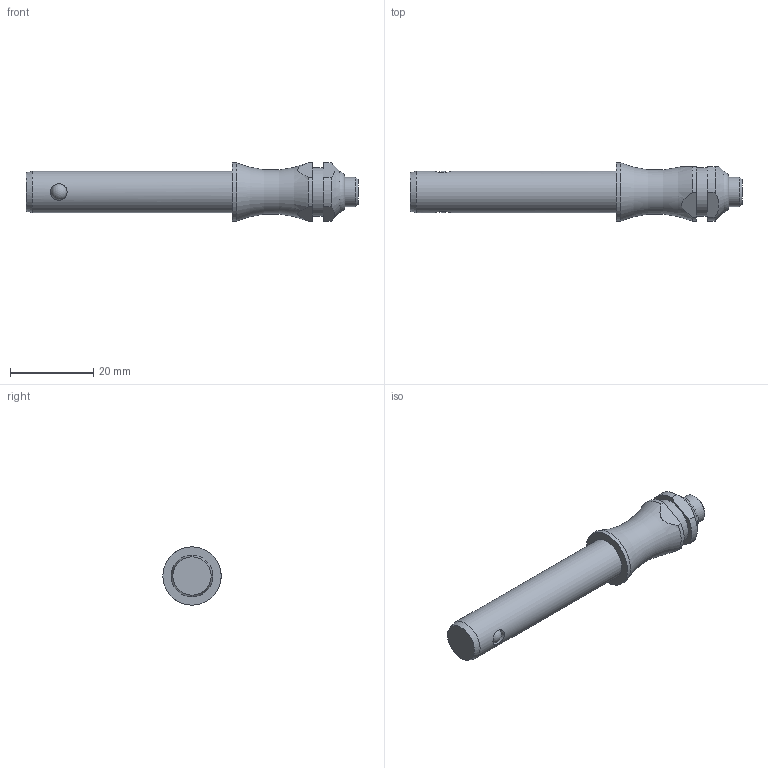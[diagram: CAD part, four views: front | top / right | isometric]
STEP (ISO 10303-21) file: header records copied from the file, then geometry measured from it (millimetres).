
FILE_DESCRIPTION( ( 'STEP AP203' ), '1' );
FILE_NAME( 'C:/Temp/Ganter_Step_05_03_2020/data/3_1/gn113_3/Stainless Steel-Ball lock pin GN 113.3-10-40 (activated).stp', '2020-03-12T08:18:34', ( 'License CC BY-ND 4.0' ), ( 'CADENAS' ), ' ', 'PARTsolutions', ' ' );
FILE_SCHEMA( ( 'CONFIG_CONTROL_DESIGN' ) );
Length unit declared in the file: millimetre
Products named in the file (1): _Stainless Steel-Ball lock pin GN 113.3-10-40 (activated)
Bounding box: 79.75 x 14 x 14 mm (x, y, z)
Volume: 6973.5 mm3; surface area: 3009.2 mm2
Topology: 1 solids, 1 shells, 30 faces, 72 edges, 45 vertices
Faces by surface type: cylinder 12, plane 11, cone 3, torus 2, sphere 2
Full cylindrical faces by diameter (mm): 4 x2, 7 x1, 10 x1, 11.6 x1, 14 x1
Entity records: 988 total; most frequent: CARTESIAN_POINT 341, DIRECTION 130, ORIENTED_EDGE 102, AXIS2_PLACEMENT_3D 56, EDGE_CURVE 51, EDGE_LOOP 46, VERTEX_POINT 39, FACE_OUTER_BOUND 38
